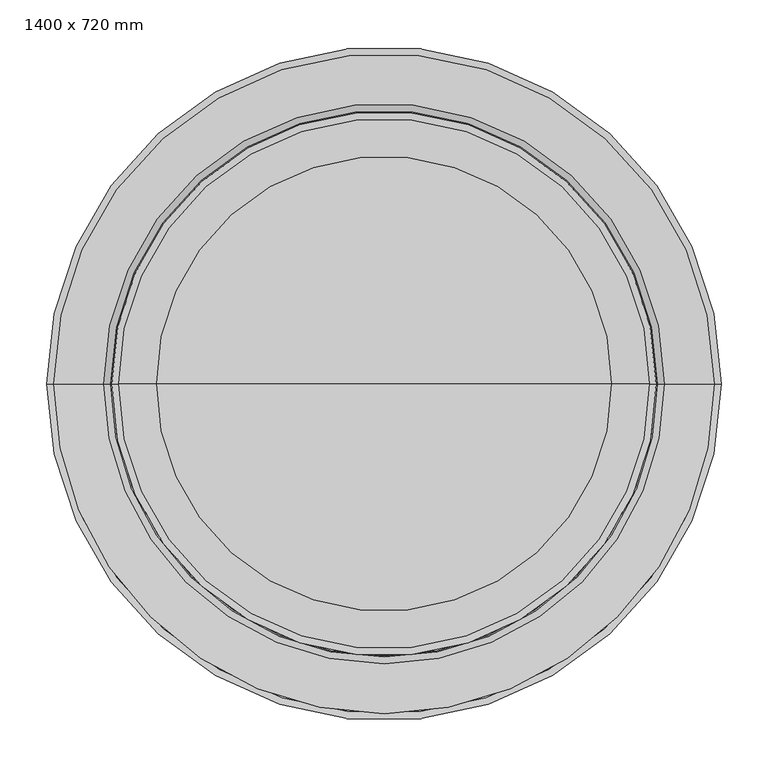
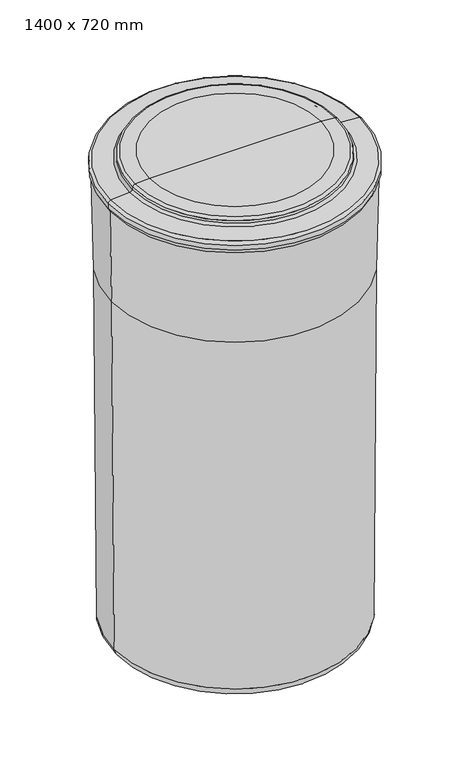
"""IFC4 building model written with IfcOpenShell, lengths in millimetres: proxy geometry, BWT_Bac à sel type 1 : 1400 x 720 mm."""

from ifc_helpers import new_model, si_unit, point, frame, origin, place, context, project, spatial, polyline, circle_curve, ellipse_curve, trimmed, source, transform, mapped, element, save
from ifc_brep_helpers import plane_surface, cylinder_surface, revolved_surface, advanced_brep


def proxy_1400_x_720_mm_ac387591(model_context):
    return source(origin(), model_context, "Body", "AdvancedBrep", [
        advanced_brep(
        [(348.4607428, 0.0, 1068.7394346), (-348.4607428, 0.0, 1068.7394346), (-354.0, 0.0, 1340.0), (354.0, 0.0, 1340.0), (341.4173957, 0.0, 28.3474108), (-341.4173957, 0.0, 28.3474108), (0.0, 0.0, 0.0), (-313.5, 0.0, 0.0), (313.5, 0.0, 0.0), (242.2953745, 0.0, 1400.0), (-242.2953745, 0.0, 1400.0), (0.0, 0.0, 1400.0), (282.6452336, 0.0, 1397.7126502), (-282.6452336, 0.0, 1397.7126502), (290.105008, 0.0, 1391.1127994), (-290.105008, 0.0, 1391.1127994), (291.203396, 0.0, 1384.8835314), (-291.203396, 0.0, 1384.8835314), (298.3846121, 0.0, 1378.3031593), (-298.3846121, 0.0, 1378.3031593), (351.6972459, 0.0, 1373.6389082), (-351.6972459, 0.0, 1373.6389082), (359.0, 0.0, 1365.6693506), (-359.0, 0.0, 1365.6693506), (359.0, 0.0, 1352.0), (-359.0, 0.0, 1352.0), (356.5506787, 0.0, 1352.0), (-356.5506787, 0.0, 1352.0)],
        [
            (0, 1, circle_curve(frame((0.0, 0.0, 1068.7394346), z_axis=(0.0, 0.0, 1.0), x_axis=(-1.0, 0.0, 0.0)), 348.4607428)),
            (1, 2),
            (2, 3, circle_curve(frame((0.0, 0.0, 1340.0), z_axis=(0.0, 0.0, -1.0), x_axis=(-1.0, 0.0, 0.0)), 354.0)),
            (3, 0),
            (1, 0, circle_curve(frame((0.0, 0.0, 1068.7394346), z_axis=(0.0, 0.0, 1.0), x_axis=(-1.0, 0.0, 0.0)), 348.4607428)),
            (3, 2, circle_curve(frame((0.0, 0.0, 1340.0), z_axis=(0.0, 0.0, -1.0), x_axis=(-1.0, 0.0, 0.0)), 354.0)),
            (4, 5, circle_curve(frame((0.0, 0.0, 28.3474108), z_axis=(0.0, 0.0, 1.0), x_axis=(-1.0, 0.0, 0.0)), 341.4173957)),
            (5, 1),
            (0, 4),
            (5, 4, circle_curve(frame((0.0, 0.0, 28.3474108), z_axis=(0.0, 0.0, 1.0), x_axis=(-1.0, 0.0, 0.0)), 341.4173957)),
            (6, 7),
            (7, 8, circle_curve(frame((0.0, 0.0, 0.0), z_axis=(0.0, 0.0, -1.0), x_axis=(-1.0, 0.0, 0.0)), 313.5)),
            (8, 6),
            (8, 7, circle_curve(frame((0.0, 0.0, 0.0), z_axis=(0.0, 0.0, -1.0), x_axis=(-1.0, 0.0, 0.0)), 313.5)),
            (9, 10, circle_curve(frame((0.0, 0.0, 1400.0), z_axis=(0.0, 0.0, 1.0), x_axis=(-1.0, 0.0, 0.0)), 242.2953745)),
            (10, 11),
            (11, 9),
            (10, 9, circle_curve(frame((0.0, 0.0, 1400.0), z_axis=(0.0, 0.0, 1.0), x_axis=(-1.0, 0.0, 0.0)), 242.2953745)),
            (12, 13, circle_curve(frame((0.0, 0.0, 1397.7126502), z_axis=(0.0, 0.0, 1.0), x_axis=(-1.0, 0.0, 0.0)), 282.6452336)),
            (13, 10),
            (9, 12),
            (13, 12, circle_curve(frame((0.0, 0.0, 1397.7126502), z_axis=(0.0, 0.0, 1.0), x_axis=(-1.0, 0.0, 0.0)), 282.6452336)),
            (14, 15, circle_curve(frame((0.0, 0.0, 1391.1127994), z_axis=(0.0, 0.0, 1.0), x_axis=(-1.0, 0.0, 0.0)), 290.105008)),
            (15, 13, circle_curve(frame((-282.226546, 0.0, 1389.723614), z_axis=(0.0, 1.0, 0.0), x_axis=(1.0, 0.0, 0.0)), 8.0)),
            (12, 14, circle_curve(frame((282.226546, 0.0, 1389.723614), z_axis=(0.0, 1.0, 0.0), x_axis=(-1.0, 0.0, 0.0)), 8.0)),
            (15, 14, circle_curve(frame((0.0, 0.0, 1391.1127994), z_axis=(0.0, 0.0, 1.0), x_axis=(-1.0, 0.0, 0.0)), 290.105008)),
            (16, 17, circle_curve(frame((0.0, 0.0, 1384.8835314), z_axis=(0.0, 0.0, 1.0), x_axis=(-1.0, 0.0, 0.0)), 291.203396)),
            (17, 15),
            (14, 16),
            (17, 16, circle_curve(frame((0.0, 0.0, 1384.8835314), z_axis=(0.0, 0.0, 1.0), x_axis=(-1.0, 0.0, 0.0)), 291.203396)),
            (18, 19, circle_curve(frame((0.0, 0.0, 1378.3031593), z_axis=(0.0, 0.0, 1.0), x_axis=(-1.0, 0.0, 0.0)), 298.3846121)),
            (19, 17, circle_curve(frame((-299.081858, 0.0, 1386.2727169), z_axis=(0.0, -1.0, 0.0), x_axis=(1.0, 0.0, 0.0)), 8.0)),
            (16, 18, circle_curve(frame((299.081858, 0.0, 1386.2727169), z_axis=(0.0, -1.0, 0.0), x_axis=(-1.0, 0.0, 0.0)), 8.0)),
            (19, 18, circle_curve(frame((0.0, 0.0, 1378.3031593), z_axis=(0.0, 0.0, 1.0), x_axis=(-1.0, 0.0, 0.0)), 298.3846121)),
            (20, 21, circle_curve(frame((0.0, 0.0, 1373.6389082), z_axis=(0.0, 0.0, 1.0), x_axis=(-1.0, 0.0, 0.0)), 351.6972459)),
            (21, 19),
            (18, 20),
            (21, 20, circle_curve(frame((0.0, 0.0, 1373.6389082), z_axis=(0.0, 0.0, 1.0), x_axis=(-1.0, 0.0, 0.0)), 351.6972459)),
            (22, 23, circle_curve(frame((0.0, 0.0, 1365.6693506), z_axis=(0.0, 0.0, 1.0), x_axis=(-1.0, 0.0, 0.0)), 359.0)),
            (23, 21, circle_curve(frame((-351.0, 0.0, 1365.6693506), z_axis=(0.0, 1.0, 0.0), x_axis=(1.0, 0.0, 0.0)), 8.0)),
            (20, 22, circle_curve(frame((351.0, 0.0, 1365.6693506), z_axis=(0.0, 1.0, 0.0), x_axis=(-1.0, 0.0, 0.0)), 8.0)),
            (23, 22, circle_curve(frame((0.0, 0.0, 1365.6693506), z_axis=(0.0, 0.0, 1.0), x_axis=(-1.0, 0.0, 0.0)), 359.0)),
            (24, 25, circle_curve(frame((0.0, 0.0, 1352.0), z_axis=(0.0, 0.0, 1.0), x_axis=(-1.0, 0.0, 0.0)), 359.0)),
            (25, 23),
            (22, 24),
            (25, 24, circle_curve(frame((0.0, 0.0, 1352.0), z_axis=(0.0, 0.0, 1.0), x_axis=(-1.0, 0.0, 0.0)), 359.0)),
            (26, 27, circle_curve(frame((0.0, 0.0, 1352.0), z_axis=(0.0, 0.0, 1.0), x_axis=(-1.0, 0.0, 0.0)), 356.5506787)),
            (27, 25),
            (24, 26),
            (27, 26, circle_curve(frame((0.0, 0.0, 1352.0), z_axis=(0.0, 0.0, 1.0), x_axis=(-1.0, 0.0, 0.0)), 356.5506787)),
            (2, 27),
            (26, 3),
            (7, 5, circle_curve(frame((-312.424297, 0.0, 28.9800425), z_axis=(0.0, 1.0, 0.0), x_axis=(1.0, 0.0, 0.0)), 29.0)),
            (4, 8, circle_curve(frame((312.424297, 0.0, 28.9800425), z_axis=(0.0, 1.0, 0.0), x_axis=(-1.0, 0.0, 0.0)), 29.0)),
        ],
        [
            revolved_surface(polyline([(-354.0, 0.0, 1340.0), (-348.4607428, 0.0, 1068.7394346)]), (0.0, 0.0, 2824.3150031), (0.0, 0.0, -1.0)),
            revolved_surface(polyline([(-348.4607428, 0.0, 1068.7394346), (-341.4173957, 0.0, 28.3474108)]), (0.0, 0.0, 2824.3150031), (0.0, 0.0, -1.0)),
            plane_surface(frame((0.0, 0.0, 0.0), z_axis=(0.0, 0.0, -1.0), x_axis=(-1.0, 0.0, 0.0))),
            plane_surface(frame((0.0, 0.0, 1400.0), z_axis=(0.0, 0.0, 1.0), x_axis=(-1.0, 0.0, 0.0))),
            revolved_surface(polyline([(-242.2953745, 0.0, 1400.0), (-282.6452336, 0.0, 1397.7126502)]), (0.0, 0.0, 2824.3150031), (0.0, 0.0, -1.0)),
            revolved_surface(trimmed(ellipse_curve(frame((-282.226546, 0.0, 1389.723614), z_axis=(0.0, -1.0, 0.0), x_axis=(1.0, 0.0, 0.0)), 8.0, 8.0), [point((-282.6452336, 0.0, 1397.7126502))], [point((-290.105008, 0.0, 1391.1127994))], True, "CARTESIAN"), (0.0, 0.0, 2824.3150031), (0.0, 0.0, -1.0)),
            revolved_surface(polyline([(-290.105008, 0.0, 1391.1127994), (-291.203396, 0.0, 1384.8835314)]), (0.0, 0.0, 2824.3150031), (0.0, 0.0, -1.0)),
            revolved_surface(trimmed(ellipse_curve(frame((-299.081858, 0.0, 1386.2727169), z_axis=(0.0, 1.0, 0.0), x_axis=(1.0, 0.0, 0.0)), 8.0, 8.0), [point((-291.203396, 0.0, 1384.8835314))], [point((-298.3846121, 0.0, 1378.3031593))], True, "CARTESIAN"), (0.0, 0.0, 2824.3150031), (0.0, 0.0, -1.0)),
            revolved_surface(polyline([(-298.3846121, 0.0, 1378.3031593), (-351.6972459, 0.0, 1373.6389082)]), (0.0, 0.0, 2824.3150031), (0.0, 0.0, -1.0)),
            revolved_surface(trimmed(ellipse_curve(frame((-351.0, 0.0, 1365.6693506), z_axis=(0.0, -1.0, 0.0), x_axis=(1.0, 0.0, 0.0)), 8.0, 8.0), [point((-351.6972459, 0.0, 1373.6389082))], [point((-359.0, 0.0, 1365.6693506))], True, "CARTESIAN"), (0.0, 0.0, 2824.3150031), (0.0, 0.0, -1.0)),
            cylinder_surface(frame((0.0, 0.0, 2824.3150031), z_axis=(0.0, 0.0, -1.0), x_axis=(-1.0, 0.0, 0.0)), 359.0),
            plane_surface(frame((0.0, 0.0, 1352.0), z_axis=(0.0, 0.0, -1.0), x_axis=(-1.0, 0.0, 0.0))),
            revolved_surface(polyline([(-356.5506787, 0.0, 1352.0), (-354.0, 0.0, 1340.0)]), (0.0, 0.0, 2824.3150031), (0.0, 0.0, -1.0)),
            revolved_surface(trimmed(ellipse_curve(frame((-312.424297, 0.0, 28.9800425), z_axis=(0.0, -1.0, 0.0), x_axis=(1.0, 0.0, 0.0)), 29.0, 29.0), [point((-341.4173957, 0.0, 28.3474108))], [point((-313.5, 0.0, 0.0))], True, "CARTESIAN"), (0.0, 0.0, 2824.3150031), (0.0, 0.0, -1.0)),
        ],
        [
            (0, [[1, 2, 3, 4]]),
            (0, [[5, -4, 6, -2]]),
            (1, [[7, 8, -1, 9]]),
            (1, [[10, -9, -5, -8]]),
            (2, [[11, 12, 13]]),
            (2, [[-13, 14, -11]]),
            (3, [[15, 16, 17]]),
            (3, [[18, -17, -16]]),
            (4, [[19, 20, -15, 21]]),
            (4, [[22, -21, -18, -20]]),
            (5, [[23, 24, -19, 25]]),
            (5, [[26, -25, -22, -24]]),
            (6, [[27, 28, -23, 29]]),
            (6, [[30, -29, -26, -28]]),
            (7, [[31, 32, -27, 33]]),
            (7, [[34, -33, -30, -32]]),
            (8, [[35, 36, -31, 37]]),
            (8, [[38, -37, -34, -36]]),
            (9, [[39, 40, -35, 41]]),
            (9, [[42, -41, -38, -40]]),
            (10, [[43, 44, -39, 45]]),
            (10, [[46, -45, -42, -44]]),
            (11, [[47, 48, -43, 49]]),
            (11, [[50, -49, -46, -48]]),
            (12, [[-3, 51, -47, 52]]),
            (12, [[-6, -52, -50, -51]]),
            (13, [[-12, 53, -7, 54]]),
            (13, [[-14, -54, -10, -53]]),
        ],
    ),
    ])


if __name__ == "__main__":
    model = new_model("IFC4")
    model_context = context("Model", 3, world=origin())
    ifc_project = project(units=[si_unit("LENGTHUNIT", "METRE", prefix="MILLI")], contexts=[model_context])
    site = spatial("IfcSite", under=ifc_project)
    building = spatial("IfcBuilding", under=site)
    placement = place(None, origin())
    proxy_1400_x_720_mm_shape = proxy_1400_x_720_mm_ac387591(model_context)
    element("IfcBuildingElementProxy", 1, Name="BWT_Bac à sel type 1 : 1400 x 720 mm", ObjectType="BWT_Bac à sel type 1 : 1400 x 720 mm", at=placement, inside=building, context=model_context, shape_type="MappedRepresentation", body=[
        mapped(proxy_1400_x_720_mm_shape, transform((0.0, 0.0, 0.0), x_axis=(1.0, 0.0, 0.0), y_axis=(0.0, 1.0, 0.0), z_axis=(0.0, 0.0, 1.0))),
    ])
    save(model, "model.ifc")
